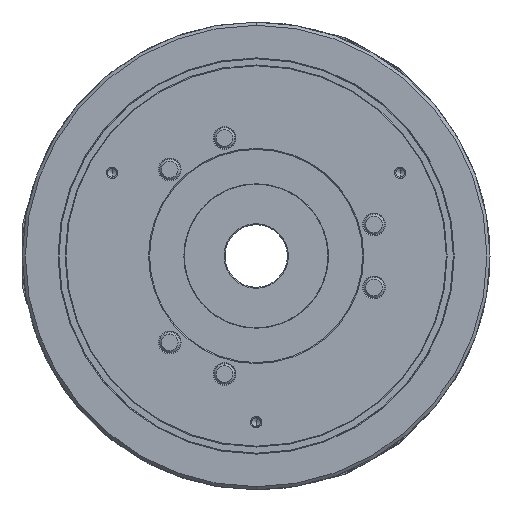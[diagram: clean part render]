
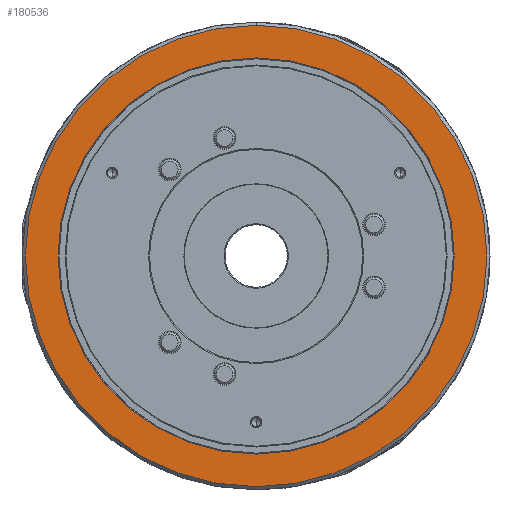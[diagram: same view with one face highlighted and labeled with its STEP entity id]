
A CAD part, left-side view. The second image highlights one B-rep face of the part: STEP entity #180536.
In plain terms, the highlighted planar face has unit normal (-1, 0, 0).
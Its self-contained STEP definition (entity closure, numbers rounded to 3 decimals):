
#2970 = EDGE_CURVE ( 'NONE', #78730, #43848, #156995, .T. ) ;
#13303 = DIRECTION ( 'NONE',  ( 0., 0., 1. ) ) ;
#16141 = DIRECTION ( 'NONE',  ( 0., 0., 1. ) ) ;
#17203 = ORIENTED_EDGE ( 'NONE', *, *, #2970, .T. ) ;
#17964 = CARTESIAN_POINT ( 'NONE',  ( -133., 0., -222. ) ) ;
#30981 = EDGE_LOOP ( 'NONE', ( #235012, #17203 ) ) ;
#39252 = CIRCLE ( 'NONE', #168393, 190.6 ) ;
#40039 = CARTESIAN_POINT ( 'NONE',  ( -133., 0., 0. ) ) ;
#42968 = DIRECTION ( 'NONE',  ( 0., 0., 1. ) ) ;
#43848 = VERTEX_POINT ( 'NONE', #17964 ) ;
#44918 = ORIENTED_EDGE ( 'NONE', *, *, #184106, .F. ) ;
#46180 = CARTESIAN_POINT ( 'NONE',  ( -133., 222., 0. ) ) ;
#51201 = CARTESIAN_POINT ( 'NONE',  ( -133., 0., 0. ) ) ;
#58879 = EDGE_CURVE ( 'NONE', #87098, #92039, #39252, .T. ) ;
#66522 = CIRCLE ( 'NONE', #219848, 190.6 ) ;
#71443 = CIRCLE ( 'NONE', #148133, 222. ) ;
#78730 = VERTEX_POINT ( 'NONE', #196772 ) ;
#81804 = CARTESIAN_POINT ( 'NONE',  ( -133., 0., -190.6 ) ) ;
#87098 = VERTEX_POINT ( 'NONE', #205549 ) ;
#92039 = VERTEX_POINT ( 'NONE', #81804 ) ;
#126793 = AXIS2_PLACEMENT_3D ( 'NONE', #46180, #177614, #199082 ) ;
#140915 = FACE_OUTER_BOUND ( 'NONE', #30981, .T. ) ;
#146626 = EDGE_CURVE ( 'NONE', #43848, #78730, #71443, .T. ) ;
#148133 = AXIS2_PLACEMENT_3D ( 'NONE', #51201, #185155, #13303 ) ;
#156995 = CIRCLE ( 'NONE', #221629, 222. ) ;
#168393 = AXIS2_PLACEMENT_3D ( 'NONE', #40039, #189210, #16141 ) ;
#173705 = ORIENTED_EDGE ( 'NONE', *, *, #58879, .F. ) ;
#176354 = FACE_BOUND ( 'NONE', #247381, .T. ) ;
#177614 = DIRECTION ( 'NONE',  ( 1., 0., 0. ) ) ;
#180536 = ADVANCED_FACE ( 'NONE', ( #176354, #140915 ), #197834, .F. ) ;
#184106 = EDGE_CURVE ( 'NONE', #92039, #87098, #66522, .T. ) ;
#185155 = DIRECTION ( 'NONE',  ( -1., 0., 0. ) ) ;
#186440 = CARTESIAN_POINT ( 'NONE',  ( -133., 0., 0. ) ) ;
#189210 = DIRECTION ( 'NONE',  ( -1., 0., 0. ) ) ;
#194593 = CARTESIAN_POINT ( 'NONE',  ( -133., 0., 0. ) ) ;
#196772 = CARTESIAN_POINT ( 'NONE',  ( -133., 0., 222. ) ) ;
#197834 = PLANE ( 'NONE',  #126793 ) ;
#199082 = DIRECTION ( 'NONE',  ( 0., 0., -1. ) ) ;
#205549 = CARTESIAN_POINT ( 'NONE',  ( -133., 0., 190.6 ) ) ;
#218531 = DIRECTION ( 'NONE',  ( -1., 0., 0. ) ) ;
#219848 = AXIS2_PLACEMENT_3D ( 'NONE', #194593, #218531, #42968 ) ;
#221629 = AXIS2_PLACEMENT_3D ( 'NONE', #186440, #228054, #247025 ) ;
#228054 = DIRECTION ( 'NONE',  ( -1., 0., 0. ) ) ;
#235012 = ORIENTED_EDGE ( 'NONE', *, *, #146626, .T. ) ;
#247025 = DIRECTION ( 'NONE',  ( 0., 0., 1. ) ) ;
#247381 = EDGE_LOOP ( 'NONE', ( #173705, #44918 ) ) ;
